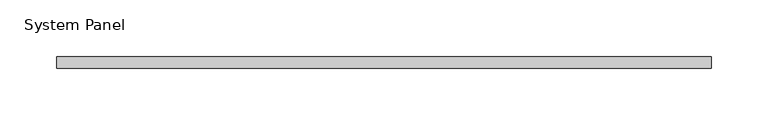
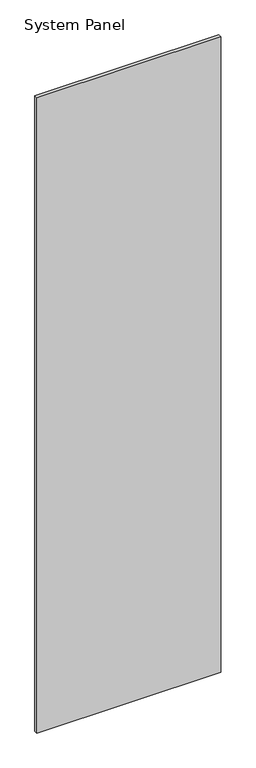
"""IFC4 building model written with IfcOpenShell, lengths in millimetres: plate geometry, System Panel : стекло_смещение_0."""

import ifcopenshell
import ifcopenshell.guid

model = None  # the IFC model being written
_history = None  # IfcOwnerHistory: only IFC2X3 demands one
_inside = {}  # id of a spatial element -> (the spatial element, [elements in it])
_under = {}  # id of a project, library or spatial element -> (it, [spatial elements below it])
_declared = {}  # id of a project -> (the project, [libraries it declares])
_typed = {}  # id of a type object -> (the type object, [elements of that type])
_made_of = {}  # id of a material, layer set ... -> (it, [elements and type objects made of it])


def new_model(schema):
    """Start an empty IFC model of exactly this schema.

    Asked for "IFC4X3", IfcOpenShell would pick the latest addendum, in which some entities
    have other attributes; the version numbers below select the first issue.
    IFC2X3 requires an IfcOwnerHistory on every rooted entity: one is made here for all.
    """
    global model, _history
    if schema == "IFC4X3":
        model = ifcopenshell.file(schema_version=(4, 3, 0, 0))
    else:
        model = ifcopenshell.file(schema=schema)
    _inside.clear()
    _under.clear()
    _declared.clear()
    _typed.clear()
    _made_of.clear()
    _history = None
    if model.schema == "IFC2X3":
        org = make("IfcOrganization", Name="unknown")
        user = make(
            "IfcPersonAndOrganization",
            ThePerson=make("IfcPerson", FamilyName="unknown"),
            TheOrganization=org,
        )
        app = make(
            "IfcApplication",
            ApplicationDeveloper=org,
            Version="unknown",
            ApplicationFullName="unknown",
            ApplicationIdentifier="unknown",
        )
        _history = make(
            "IfcOwnerHistory",
            OwningUser=user,
            OwningApplication=app,
            ChangeAction="ADDED",
            CreationDate=0,
        )
    return model


def make(cls, **values):
    """One entity of the class cls with the attributes given. An attribute that is None is left unset."""
    return model.create_entity(
        cls, **{name: value for name, value in values.items() if value is not None}
    )


def rooted(cls, **values):
    """An entity with a GlobalId (a new one), such as an element, a storey or a relation."""
    return make(cls, GlobalId=ifcopenshell.guid.new(), OwnerHistory=_history, **values)


def si_unit(unit_type, name, prefix=None):
    """IfcSIUnit, for example si_unit("LENGTHUNIT", "METRE", prefix="MILLI")."""
    return make("IfcSIUnit", UnitType=unit_type, Prefix=prefix, Name=name)


def assignment(units):
    """IfcUnitAssignment: the units of a project."""
    return None if units is None else make("IfcUnitAssignment", Units=units)


def point(xyz):
    """IfcCartesianPoint."""
    return None if xyz is None else make("IfcCartesianPoint", Coordinates=xyz)


def direction(xyz):
    """IfcDirection."""
    return None if xyz is None else make("IfcDirection", DirectionRatios=xyz)


def frame(location, z_axis=None, x_axis=None):
    """IfcAxis2Placement3D, a coordinate frame: its origin and axes. An axis left out is left unset."""
    return make(
        "IfcAxis2Placement3D",
        Location=point(location),
        Axis=direction(z_axis),
        RefDirection=direction(x_axis),
    )


def origin():
    """The frame at (0, 0, 0) with its axes left unset."""
    return frame((0.0, 0.0, 0.0))


def origin_with_axes():
    """The frame at (0, 0, 0) with the z axis (0, 0, 1) and the x axis (1, 0, 0) written out."""
    return frame((0.0, 0.0, 0.0), z_axis=(0.0, 0.0, 1.0), x_axis=(1.0, 0.0, 0.0))


def place(relative_to, where):
    """IfcLocalPlacement: puts the frame where relative to a parent placement (None: the world)."""
    return make(
        "IfcLocalPlacement", PlacementRelTo=relative_to, RelativePlacement=where
    )


def context(
    kind, dimensions, precision=None, world=None, true_north=None, identifier=None
):
    """IfcGeometricRepresentationContext, for example the 3D "Model" context."""
    return make(
        "IfcGeometricRepresentationContext",
        ContextIdentifier=identifier,
        ContextType=kind,
        CoordinateSpaceDimension=dimensions,
        Precision=precision,
        WorldCoordinateSystem=world,
        TrueNorth=true_north,
    )


def project(units=None, contexts=None):
    """IfcProject with its units and contexts."""
    return rooted(
        "IfcProject",
        Name="project",
        RepresentationContexts=contexts,
        UnitsInContext=assignment(units),
    )


def spatial(cls, under=None, at=None, **own):
    """A site, building, storey or space (cls), placed at a placement, below another one or the project."""
    s = rooted(cls, ObjectPlacement=at, **own)
    if under is not None:
        _under.setdefault(under.id(), (under, []))[1].append(s)
    return s


def polyline(points):
    """IfcPolyline through the points."""
    return make("IfcPolyline", Points=[point(p) for p in points])


def outline(outer, holes=None, kind="AREA"):
    """IfcArbitraryClosedProfileDef: a profile drawn as a closed curve; with holes, ...WithVoids."""
    if holes is None:
        return make("IfcArbitraryClosedProfileDef", ProfileType=kind, OuterCurve=outer)
    return make(
        "IfcArbitraryProfileDefWithVoids",
        ProfileType=kind,
        OuterCurve=outer,
        InnerCurves=holes,
    )


def extrude(swept, where, along, depth):
    """IfcExtrudedAreaSolid: the profile swept, set in the frame where, extruded along a direction by depth."""
    return make(
        "IfcExtrudedAreaSolid",
        SweptArea=swept,
        Position=where,
        ExtrudedDirection=direction(along),
        Depth=depth,
    )


def shape(context_of_items, identifier, shape_type, items):
    """IfcShapeRepresentation: the items that make up one representation, for example the "Body"."""
    return make(
        "IfcShapeRepresentation",
        ContextOfItems=context_of_items,
        RepresentationIdentifier=identifier,
        RepresentationType=shape_type,
        Items=items,
    )


def source(mapping_origin, context_of_items, identifier, shape_type, items):
    """IfcRepresentationMap: a shape defined once, which mapped items show again and again."""
    return make(
        "IfcRepresentationMap",
        MappingOrigin=mapping_origin,
        MappedRepresentation=shape(context_of_items, identifier, shape_type, items),
    )


def transform(
    local_origin,
    x_axis=None,
    y_axis=None,
    z_axis=None,
    scale=None,
    scale2=None,
    scale3=None,
    uniform=True,
):
    """IfcCartesianTransformationOperator3D, or its non-uniform kind. x_axis, y_axis, z_axis: its Axis1, 2, 3."""
    if uniform:
        return make(
            "IfcCartesianTransformationOperator3D",
            Axis1=direction(x_axis),
            Axis2=direction(y_axis),
            LocalOrigin=point(local_origin),
            Scale=scale,
            Axis3=direction(z_axis),
        )
    return make(
        "IfcCartesianTransformationOperator3DnonUniform",
        Axis1=direction(x_axis),
        Axis2=direction(y_axis),
        LocalOrigin=point(local_origin),
        Scale=scale,
        Axis3=direction(z_axis),
        Scale2=scale2,
        Scale3=scale3,
    )


def mapped(mapping_source, mapping_target):
    """IfcMappedItem: shows the shape of a source again, moved by a transform."""
    return make(
        "IfcMappedItem", MappingSource=mapping_source, MappingTarget=mapping_target
    )


def made_of(thing, what):
    """Note that an element or type object is made of a material, layer set ...; save() writes the relation."""
    if what is not None:
        _made_of.setdefault(what.id(), (what, []))[1].append(thing)
    return thing


def element(
    cls,
    number,
    at=None,
    inside=None,
    cuts=None,
    type_object=None,
    material=None,
    context=None,
    identifier="Body",
    shape_type=None,
    held_by="IfcProductDefinitionShape",
    body=None,
    shapes=None,
    **own,
):
    """One element of the class cls, such as IfcWall. Its Tag is "e" and its number.

    at: its placement. inside: the storey or other place that contains it. cuts: it is an
    opening in that element (IfcRelVoidsElement). A single representation is given by context,
    identifier, shape_type and body (its items); several are given by shapes. held_by: the class
    of the entity that holds the representations. save() writes the other relations.
    """
    e = rooted(cls, Tag="e%d" % number, ObjectPlacement=at, **own)
    if body is not None:
        shapes = [shape(context, identifier, shape_type, body)]
    if shapes is not None:
        e.Representation = make(held_by, Representations=shapes)
    if inside is not None:
        _inside.setdefault(inside.id(), (inside, []))[1].append(e)
    if cuts is not None:
        rooted(
            "IfcRelVoidsElement", RelatingBuildingElement=cuts, RelatedOpeningElement=e
        )
    if type_object is not None:
        _typed.setdefault(type_object.id(), (type_object, []))[1].append(e)
    return made_of(e, material)


def aggregate(whole, parts):
    """IfcRelAggregates: a whole, such as a stair, and the parts it consists of."""
    return rooted("IfcRelAggregates", RelatingObject=whole, RelatedObjects=parts)


def save(model, path):
    """Write the relations noted so far, then the file.

    IfcRelAggregates (storeys below a building ...), IfcRelContainedInSpatialStructure (elements
    in a storey), IfcRelDefinesByType, IfcRelAssociatesMaterial and IfcRelDeclares: one each for
    every whole, place, type object, material and project.
    """
    for whole, parts in _under.values():
        aggregate(whole, parts)
    for where, things in _inside.values():
        rooted(
            "IfcRelContainedInSpatialStructure",
            RelatedElements=things,
            RelatingStructure=where,
        )
    for kind, things in _typed.values():
        rooted("IfcRelDefinesByType", RelatedObjects=things, RelatingType=kind)
    for what, things in _made_of.values():
        rooted("IfcRelAssociatesMaterial", RelatedObjects=things, RelatingMaterial=what)
    for by, libraries in _declared.values():
        rooted("IfcRelDeclares", RelatingContext=by, RelatedDefinitions=libraries)
    model.write(path)


def system_panel_2fe3b8ab(model_context):
    return source(origin(), model_context, "Body", "SweptSolid", [
        extrude(outline(polyline([(287.5, -5.0), (-287.5, -5.0), (-287.5, 5.0), (287.5, 5.0), (287.5, -5.0)])), origin_with_axes(), (0.0, 0.0, 1.0), 2100.0),
    ])


if __name__ == "__main__":
    model = new_model("IFC4")
    model_context = context("Model", 3, world=origin())
    ifc_project = project(units=[si_unit("LENGTHUNIT", "METRE", prefix="MILLI")], contexts=[model_context])
    site = spatial("IfcSite", under=ifc_project)
    building = spatial("IfcBuilding", under=site)
    placement = place(None, origin())
    system_panel_shape = system_panel_2fe3b8ab(model_context)
    element("IfcPlate", 1, ObjectType="System Panel : стекло_смещение_0", at=placement, inside=building, context=model_context, shape_type="MappedRepresentation", body=[
        mapped(system_panel_shape, transform((0.0, 0.0, 0.0), x_axis=(1.0, 0.0, 0.0), y_axis=(0.0, 1.0, 0.0), z_axis=(0.0, 0.0, 1.0))),
    ])
    save(model, "model.ifc")
